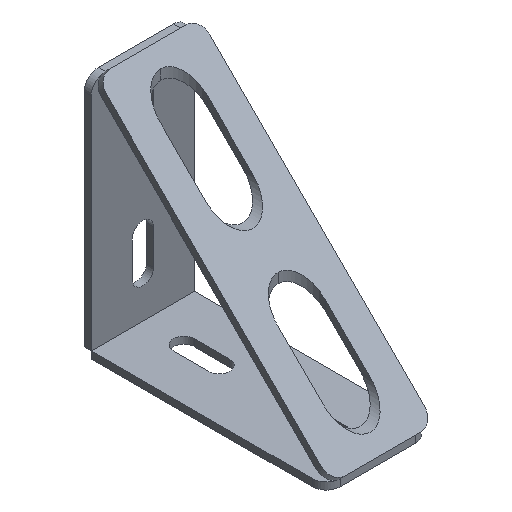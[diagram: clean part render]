
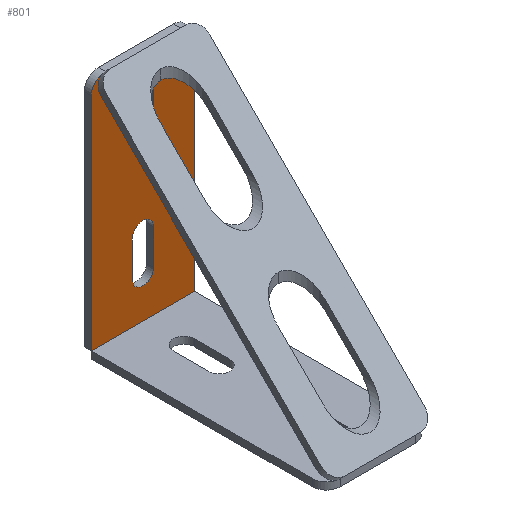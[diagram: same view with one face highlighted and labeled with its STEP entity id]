
A CAD part, isometric view. The second image highlights one B-rep face of the part: STEP entity #801.
In plain terms, the highlighted planar face has unit normal (0, -1, 0) as drawn and (0, 0, -1) by its records, which use the part's own axes.
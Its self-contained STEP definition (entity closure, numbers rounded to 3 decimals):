
#6 = AXIS2_PLACEMENT_3D ( 'NONE', #660, #50, #793 ) ;
#7 = VERTEX_POINT ( 'NONE', #758 ) ;
#8 = EDGE_LOOP ( 'NONE', ( #420, #182, #151, #718 ) ) ;
#14 = DIRECTION ( 'NONE',  ( 0., 0., 1. ) ) ;
#15 = LINE ( 'NONE', #914, #1068 ) ;
#50 = DIRECTION ( 'NONE',  ( 0., 0., 1. ) ) ;
#112 = EDGE_CURVE ( 'NONE', #280, #7, #257, .T. ) ;
#115 = DIRECTION ( 'NONE',  ( -1., 0., 0. ) ) ;
#123 = ORIENTED_EDGE ( 'NONE', *, *, #628, .F. ) ;
#139 = VERTEX_POINT ( 'NONE', #184 ) ;
#151 = ORIENTED_EDGE ( 'NONE', *, *, #871, .T. ) ;
#156 = CARTESIAN_POINT ( 'NONE',  ( -33.013, 1.316, 0. ) ) ;
#159 = VERTEX_POINT ( 'NONE', #1321 ) ;
#162 = VECTOR ( 'NONE', #1101, 1000. ) ;
#164 = VERTEX_POINT ( 'NONE', #699 ) ;
#177 = AXIS2_PLACEMENT_3D ( 'NONE', #915, #307, #1019 ) ;
#179 = VECTOR ( 'NONE', #763, 1000. ) ;
#182 = ORIENTED_EDGE ( 'NONE', *, *, #602, .T. ) ;
#184 = CARTESIAN_POINT ( 'NONE',  ( -33.013, 51.316, 0. ) ) ;
#190 = CARTESIAN_POINT ( 'NONE',  ( -37.513, 51.316, 0. ) ) ;
#194 = CARTESIAN_POINT ( 'NONE',  ( -42.013, 36.316, 0. ) ) ;
#200 = DIRECTION ( 'NONE',  ( 0., 1., 0. ) ) ;
#205 = CARTESIAN_POINT ( 'NONE',  ( -59.513, 68.816, 0. ) ) ;
#216 = EDGE_CURVE ( 'NONE', #649, #807, #705, .T. ) ;
#218 = CARTESIAN_POINT ( 'NONE',  ( -42.013, -13.684, 0. ) ) ;
#219 = CIRCLE ( 'NONE', #606, 6. ) ;
#246 = CARTESIAN_POINT ( 'NONE',  ( -21.513, -25.184, 0. ) ) ;
#256 = CIRCLE ( 'NONE', #547, 6. ) ;
#257 = CIRCLE ( 'NONE', #6, 4.5 ) ;
#258 = CARTESIAN_POINT ( 'NONE',  ( -53.513, -25.184, 0. ) ) ;
#259 = EDGE_CURVE ( 'NONE', #139, #927, #399, .T. ) ;
#260 = VERTEX_POINT ( 'NONE', #599 ) ;
#263 = CARTESIAN_POINT ( 'NONE',  ( -37.513, 36.316, 0. ) ) ;
#265 = CARTESIAN_POINT ( 'NONE',  ( -53.513, -31.184, 0. ) ) ;
#280 = VERTEX_POINT ( 'NONE', #1110 ) ;
#296 = DIRECTION ( 'NONE',  ( 1., 0., 0. ) ) ;
#307 = DIRECTION ( 'NONE',  ( 0., 0., 1. ) ) ;
#309 = ORIENTED_EDGE ( 'NONE', *, *, #112, .T. ) ;
#347 = ORIENTED_EDGE ( 'NONE', *, *, #1091, .T. ) ;
#352 = DIRECTION ( 'NONE',  ( 1., 0., 0. ) ) ;
#364 = DIRECTION ( 'NONE',  ( 1., 0., 0. ) ) ;
#367 = ORIENTED_EDGE ( 'NONE', *, *, #449, .T. ) ;
#369 = DIRECTION ( 'NONE',  ( 1., 0., 0. ) ) ;
#370 = DIRECTION ( 'NONE',  ( 1., 0., 0. ) ) ;
#391 = CARTESIAN_POINT ( 'NONE',  ( -21.513, -31.184, 0. ) ) ;
#399 = CIRCLE ( 'NONE', #642, 4.5 ) ;
#420 = ORIENTED_EDGE ( 'NONE', *, *, #259, .T. ) ;
#444 = DIRECTION ( 'NONE',  ( 0., -1., 0. ) ) ;
#449 = EDGE_CURVE ( 'NONE', #7, #1277, #991, .T. ) ;
#493 = LINE ( 'NONE', #720, #1133 ) ;
#495 = FACE_OUTER_BOUND ( 'NONE', #752, .T. ) ;
#501 = VERTEX_POINT ( 'NONE', #690 ) ;
#502 = ORIENTED_EDGE ( 'NONE', *, *, #788, .F. ) ;
#523 = CARTESIAN_POINT ( 'NONE',  ( -53.513, -25.184, 0. ) ) ;
#525 = FACE_BOUND ( 'NONE', #8, .T. ) ;
#532 = VERTEX_POINT ( 'NONE', #391 ) ;
#547 = AXIS2_PLACEMENT_3D ( 'NONE', #246, #959, #352 ) ;
#588 = VERTEX_POINT ( 'NONE', #745 ) ;
#599 = CARTESIAN_POINT ( 'NONE',  ( -42.013, 1.316, 0. ) ) ;
#602 = EDGE_CURVE ( 'NONE', #927, #708, #828, .T. ) ;
#606 = AXIS2_PLACEMENT_3D ( 'NONE', #258, #974, #364 ) ;
#621 = VECTOR ( 'NONE', #834, 1000. ) ;
#624 = PLANE ( 'NONE',  #996 ) ;
#628 = EDGE_CURVE ( 'NONE', #532, #649, #256, .T. ) ;
#642 = AXIS2_PLACEMENT_3D ( 'NONE', #190, #905, #296 ) ;
#649 = VERTEX_POINT ( 'NONE', #753 ) ;
#656 = LINE ( 'NONE', #218, #621 ) ;
#659 = CARTESIAN_POINT ( 'NONE',  ( -15.513, 68.816, 0. ) ) ;
#660 = CARTESIAN_POINT ( 'NONE',  ( -37.513, -13.684, 0. ) ) ;
#664 = CARTESIAN_POINT ( 'NONE',  ( -33.013, 1.316, 0. ) ) ;
#681 = CARTESIAN_POINT ( 'NONE',  ( -42.013, 51.333, 0. ) ) ;
#690 = CARTESIAN_POINT ( 'NONE',  ( -59.513, 68.816, 0. ) ) ;
#698 = CIRCLE ( 'NONE', #1208, 4.5 ) ;
#699 = CARTESIAN_POINT ( 'NONE',  ( -33.013, 36.316, 0. ) ) ;
#705 = LINE ( 'NONE', #659, #162 ) ;
#708 = VERTEX_POINT ( 'NONE', #194 ) ;
#718 = ORIENTED_EDGE ( 'NONE', *, *, #1155, .T. ) ;
#720 = CARTESIAN_POINT ( 'NONE',  ( -59.513, 68.816, 0. ) ) ;
#727 = DIRECTION ( 'NONE',  ( 1., 0., 0. ) ) ;
#729 = ORIENTED_EDGE ( 'NONE', *, *, #1251, .F. ) ;
#745 = CARTESIAN_POINT ( 'NONE',  ( -53.513, -31.184, 0. ) ) ;
#746 = EDGE_CURVE ( 'NONE', #1277, #260, #975, .T. ) ;
#752 = EDGE_LOOP ( 'NONE', ( #502, #978, #1233, #123, #1107, #729 ) ) ;
#753 = CARTESIAN_POINT ( 'NONE',  ( -15.513, -25.184, 0. ) ) ;
#758 = CARTESIAN_POINT ( 'NONE',  ( -33.013, -13.684, 0. ) ) ;
#763 = DIRECTION ( 'NONE',  ( 0., 1., 0. ) ) ;
#788 = EDGE_CURVE ( 'NONE', #501, #159, #1069, .T. ) ;
#793 = DIRECTION ( 'NONE',  ( 1., 0., 0. ) ) ;
#797 = VECTOR ( 'NONE', #918, 1000. ) ;
#799 = VECTOR ( 'NONE', #444, 1000. ) ;
#801 = ADVANCED_FACE ( 'NONE', ( #1316, #495, #525 ), #624, .F. ) ;
#807 = VERTEX_POINT ( 'NONE', #826 ) ;
#826 = CARTESIAN_POINT ( 'NONE',  ( -15.513, 68.816, 0. ) ) ;
#828 = LINE ( 'NONE', #1162, #799 ) ;
#834 = DIRECTION ( 'NONE',  ( 0., -1., 0. ) ) ;
#871 = EDGE_CURVE ( 'NONE', #708, #164, #698, .T. ) ;
#872 = LINE ( 'NONE', #265, #1153 ) ;
#905 = DIRECTION ( 'NONE',  ( 0., 0., 1. ) ) ;
#914 = CARTESIAN_POINT ( 'NONE',  ( -33.013, 51.316, 0. ) ) ;
#915 = CARTESIAN_POINT ( 'NONE',  ( -37.513, 1.316, 0. ) ) ;
#918 = DIRECTION ( 'NONE',  ( 0., -1., 0. ) ) ;
#927 = VERTEX_POINT ( 'NONE', #681 ) ;
#949 = EDGE_LOOP ( 'NONE', ( #1299, #347, #309, #367 ) ) ;
#959 = DIRECTION ( 'NONE',  ( 0., 0., 1. ) ) ;
#968 = EDGE_CURVE ( 'NONE', #588, #532, #872, .T. ) ;
#974 = DIRECTION ( 'NONE',  ( 0., 0., 1. ) ) ;
#975 = CIRCLE ( 'NONE', #177, 4.5 ) ;
#978 = ORIENTED_EDGE ( 'NONE', *, *, #1205, .F. ) ;
#979 = DIRECTION ( 'NONE',  ( 0., 0., 1. ) ) ;
#991 = LINE ( 'NONE', #664, #179 ) ;
#996 = AXIS2_PLACEMENT_3D ( 'NONE', #523, #14, #727 ) ;
#1019 = DIRECTION ( 'NONE',  ( 1., 0., 0. ) ) ;
#1068 = VECTOR ( 'NONE', #200, 1000. ) ;
#1069 = LINE ( 'NONE', #205, #797 ) ;
#1091 = EDGE_CURVE ( 'NONE', #260, #280, #656, .T. ) ;
#1101 = DIRECTION ( 'NONE',  ( 0., 1., 0. ) ) ;
#1107 = ORIENTED_EDGE ( 'NONE', *, *, #968, .F. ) ;
#1110 = CARTESIAN_POINT ( 'NONE',  ( -42.013, -13.684, 0. ) ) ;
#1133 = VECTOR ( 'NONE', #115, 1000. ) ;
#1153 = VECTOR ( 'NONE', #370, 1000. ) ;
#1155 = EDGE_CURVE ( 'NONE', #164, #139, #15, .T. ) ;
#1162 = CARTESIAN_POINT ( 'NONE',  ( -42.013, 36.316, 0. ) ) ;
#1205 = EDGE_CURVE ( 'NONE', #807, #501, #493, .T. ) ;
#1208 = AXIS2_PLACEMENT_3D ( 'NONE', #263, #979, #369 ) ;
#1233 = ORIENTED_EDGE ( 'NONE', *, *, #216, .F. ) ;
#1251 = EDGE_CURVE ( 'NONE', #159, #588, #219, .T. ) ;
#1277 = VERTEX_POINT ( 'NONE', #156 ) ;
#1299 = ORIENTED_EDGE ( 'NONE', *, *, #746, .T. ) ;
#1316 = FACE_BOUND ( 'NONE', #949, .T. ) ;
#1321 = CARTESIAN_POINT ( 'NONE',  ( -59.513, -25.184, 0. ) ) ;
